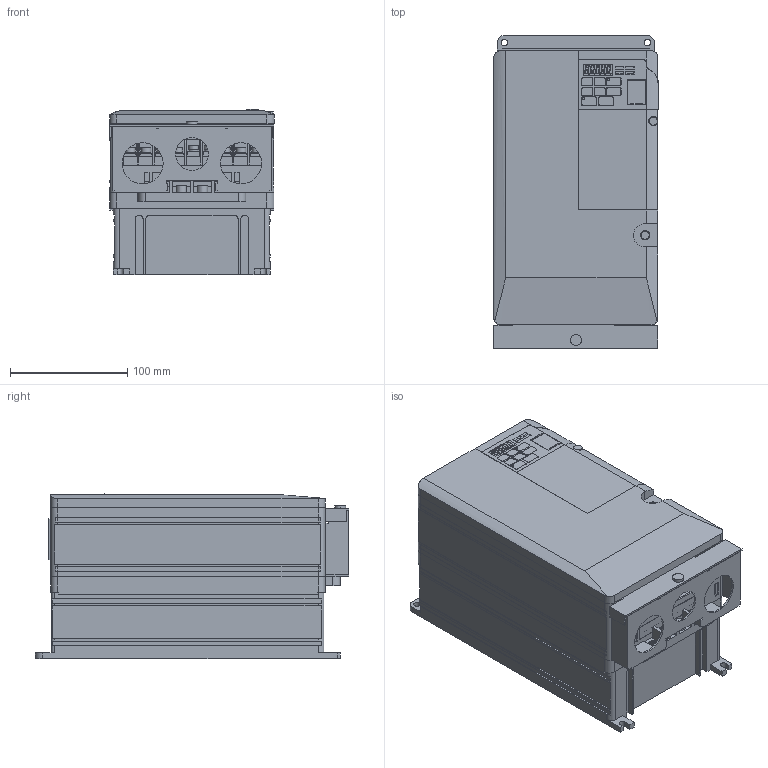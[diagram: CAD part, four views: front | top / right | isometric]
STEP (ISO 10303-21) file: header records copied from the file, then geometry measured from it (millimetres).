
FILE_DESCRIPTION((''),'2;1');
FILE_NAME('V1000_IP20_FRAME_L1_ASM','2010-07-20T',('jc'),('YASKAWA ELECTRIC CORCORATION'),'PRO/ENGINEER BY PARAMETRIC TECHNOLOGY CORPORATION, 2008490','PRO/ENGINEER BY PARAMETRIC TECHNOLOGY CORPORATION, 2008490','');
FILE_SCHEMA(('CONFIG_CONTROL_DESIGN'));
Length unit declared in the file: millimetre
Products named in the file (28): NONE-25128; NEMA1_COVER_E________ANY_ASM; NONE-40684; ASM0103_ASM; NEMA1_CASE_E________ANY; NONE-16807; BASE_FAN_E________ANY_ASM; NONE-35130; ASM0104_ASM; NONE-16095; ASM0105_ASM; NONE-16993; TANSHI_COVER_E________ANY_ASM; NONE-28183; BASE_HEATSINK_E________ANY_ASM; NONE-26899; BASE_MAIN_TERMINAL_E_2________A_ASM; NONE-16581; BASE_UE_COVER_E________ANY_ASM; NONE-11964; BASE_CASE_E________ANY_ASM; NONE-18261; ASM0106_ASM; NONE-30214; BASE_MAIN_TERMINAL_E_1________A_ASM; CIMR_VZ4A0018FAA_ANY_ASM; _2A0030F_2A0040F_4A0018F_4A0023; V1000_IP20_FRAME_L1_ASM
Assembly tree (28 placements, depth 4):
  V1000_IP20_FRAME_L1_ASM
    CIMR_VZ4A0018FAA_ANY_ASM
      NEMA1_COVER_E________ANY_ASM
        NONE-25128
      ASM0103_ASM
        NONE-40684
      NEMA1_CASE_E________ANY
      BASE_FAN_E________ANY_ASM  x2
        NONE-16807
      ASM0104_ASM
        NONE-35130
      ASM0105_ASM
        NONE-16095
      TANSHI_COVER_E________ANY_ASM
        NONE-16993
      BASE_HEATSINK_E________ANY_ASM
        NONE-28183
      BASE_MAIN_TERMINAL_E_2________A_ASM
        NONE-26899
      BASE_UE_COVER_E________ANY_ASM
        NONE-16581
      BASE_CASE_E________ANY_ASM
        NONE-11964
      ASM0106_ASM
        NONE-18261
      BASE_MAIN_TERMINAL_E_1________A_ASM
        NONE-30214
    _2A0030F_2A0040F_4A0018F_4A0023
Bounding box: 140.18 x 267 x 141 mm (x, y, z)
Volume: 2328536.9 mm3; surface area: 554388.5 mm2
Topology: 13 solids, 14 shells, 1995 faces, 5406 edges, 3580 vertices
Faces by surface type: plane 1566, cylinder 429
Entity records: 62498 total; most frequent: CARTESIAN_POINT 11032, ORIENTED_EDGE 10654, DIRECTION 10357, EDGE_CURVE 5335, VECTOR 4385, LINE 4385, VERTEX_POINT 3532, AXIS2_PLACEMENT_3D 2986
